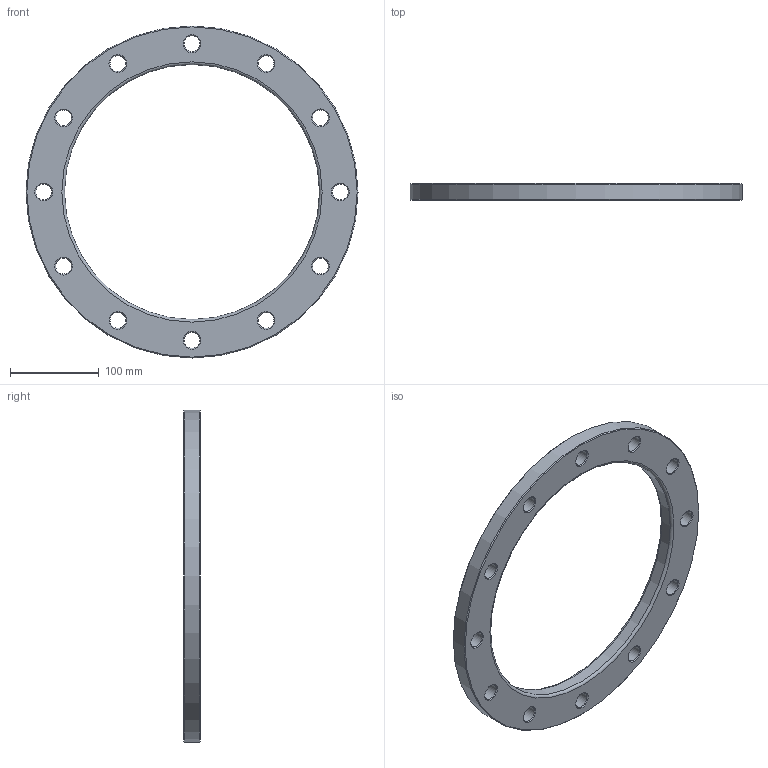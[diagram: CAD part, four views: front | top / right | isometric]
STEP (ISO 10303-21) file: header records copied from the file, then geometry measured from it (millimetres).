
FILE_DESCRIPTION(/* description */ ('Unknown'),/* implementation_level */ '2;1');
FILE_NAME(/* name */ 'FZ250A',/* time_stamp */ '2021-03-13T11:48:47+01:00',/* author */ ('Unknown'),/* organization */ ('Unknown'),/* preprocessor_version */ 'ST-DEVELOPER v16.7',/* originating_system */ 'Solid Edge',/* authorisation */ 'Unknown');
FILE_SCHEMA (('AUTOMOTIVE_DESIGN {1 0 10303 214 3 1 1}'));
Length unit declared in the file: millimetre
Products named in the file (1): FZ250A
Bounding box: 375 x 19 x 375 mm (x, y, z)
Volume: 797338.6 mm3; surface area: 132497 mm2
Topology: 1 solids, 1 shells, 44 faces, 134 edges, 92 vertices
Faces by surface type: cone 26, cylinder 14, plane 2, torus 2
Full cylindrical faces by diameter (mm): 18 x12, 288 x1, 375 x1
Entity records: 1086 total; most frequent: DIRECTION 202, CARTESIAN_POINT 157, ORIENTED_EDGE 112, EDGE_LOOP 112, FACE_BOUND 112, AXIS2_PLACEMENT_3D 101, EDGE_CURVE 56, VERTEX_POINT 56
